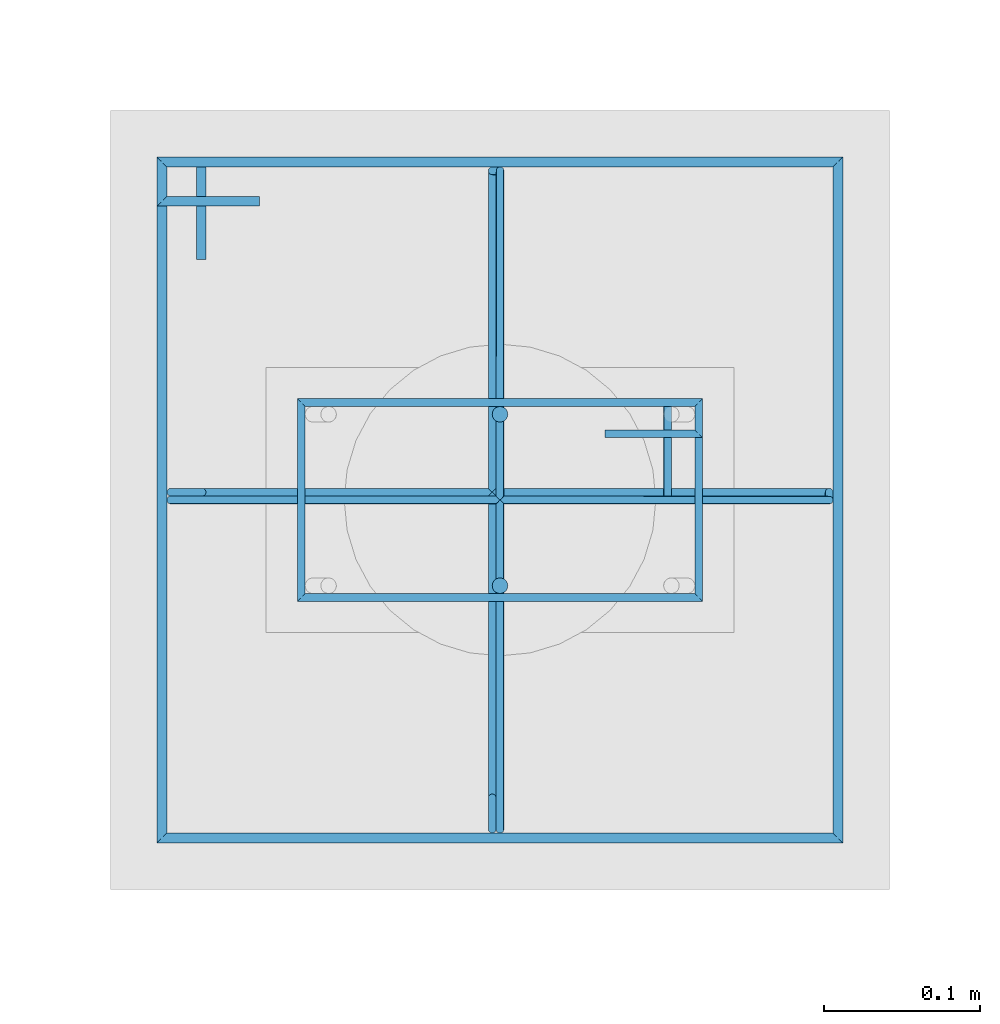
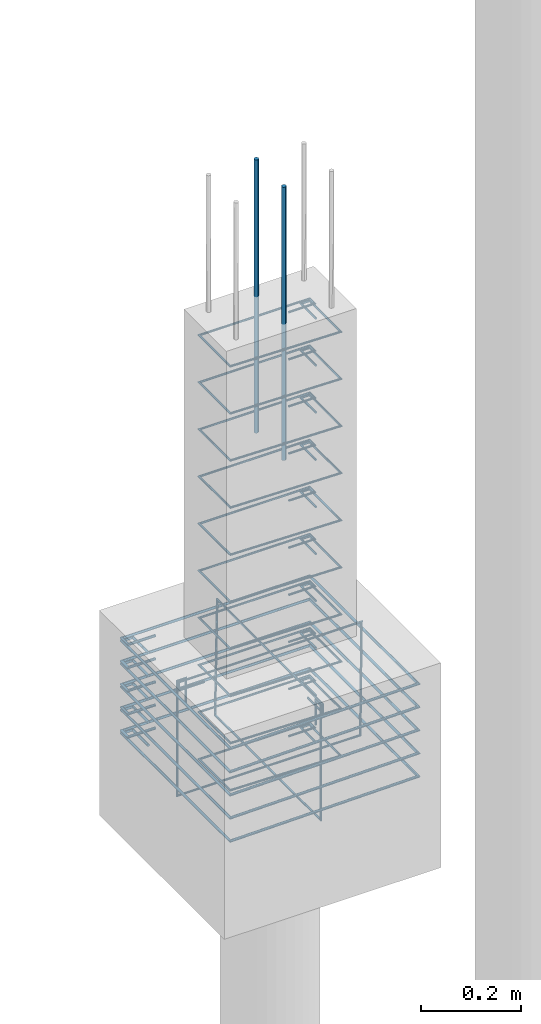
# One storey, part 101 of 119: 19 reinforcing bars.
"""IFC4 building model written with IfcOpenShell, lengths in centimetres."""

from ifc_helpers import new_model, entity, si_unit, derived_unit, frame, origin_with_axes, place, context, project, spatial, source, transform, mapped, element, save


model = new_model("IFC4")

# Units and contexts
model_context = context("Model", 3, precision=1e-05, world=origin_with_axes(), identifier="Body")
ifc_project = project(units=[si_unit("LENGTHUNIT", "METRE", prefix="CENTI"), si_unit("VOLUMEUNIT", "CUBIC_METRE"), si_unit("AREAUNIT", "SQUARE_METRE"), si_unit("POWERUNIT", "WATT"), si_unit("LUMINOUSFLUXUNIT", "LUMEN"), si_unit("ELECTRICCURRENTUNIT", "AMPERE"), si_unit("PRESSUREUNIT", "PASCAL", prefix="KILO"), si_unit("MASSUNIT", "GRAM", prefix="KILO"), si_unit("PLANEANGLEUNIT", "RADIAN"), derived_unit("VOLUMETRICFLOWRATEUNIT", [(si_unit("LENGTHUNIT", "METRE"), 3), (si_unit("TIMEUNIT", "SECOND"), -1)])], contexts=[model_context])

# Site, building, storey
site_placement = place(None, frame((-4000.0, 0.0, 0.0), z_axis=(0.0, 0.0, 1.0), x_axis=(1.0, 0.0, 0.0)))
site = spatial("IfcSite", under=ifc_project, at=site_placement, Name="PADRÃO")
building_placement = place(site_placement, frame((0.0, 0.0, -14.0)))
building = spatial("IfcBuilding", under=site, at=building_placement, Name="CRECHE PRÉ-ESCOLA TIPO 2")
storey_placement = place(building_placement, origin_with_axes())
storey = spatial("IfcBuildingStorey", under=building, at=storey_placement, Name="FUNDAÇÃO", CompositionType="ELEMENT", Elevation=-14.0)

# Reinforcing bars
shared_shape_1 = source(origin_with_axes(), model_context, "Body", "AdvancedSweptSolid", [
    entity("IfcSweptDiskSolid", entity("IfcCompositeCurve", [entity("IfcCompositeCurveSegment", "CONTINUOUS", True, entity("IfcPolyline", [entity("IfcCartesianPoint", [4.25, 21.75, 0.0]), entity("IfcCartesianPoint", [4.25, 27.75, 0.0])])), entity("IfcCompositeCurveSegment", "CONTINUOUS", True, entity("IfcPolyline", [entity("IfcCartesianPoint", [4.25, 27.75, 0.0]), entity("IfcCartesianPoint", [2.25, 27.75, 0.0])])), entity("IfcCompositeCurveSegment", "CONTINUOUS", True, entity("IfcPolyline", [entity("IfcCartesianPoint", [2.25, 27.75, 0.0]), entity("IfcCartesianPoint", [2.25, 2.25, 0.0])])), entity("IfcCompositeCurveSegment", "CONTINUOUS", True, entity("IfcPolyline", [entity("IfcCartesianPoint", [2.25, 2.25, 0.0]), entity("IfcCartesianPoint", [14.75, 2.25, 0.0])])), entity("IfcCompositeCurveSegment", "CONTINUOUS", True, entity("IfcPolyline", [entity("IfcCartesianPoint", [14.75, 2.25, 0.0]), entity("IfcCartesianPoint", [14.75, 27.75, -0.5])])), entity("IfcCompositeCurveSegment", "CONTINUOUS", True, entity("IfcPolyline", [entity("IfcCartesianPoint", [14.75, 27.75, -0.5]), entity("IfcCartesianPoint", [2.25, 27.75, -0.5])])), entity("IfcCompositeCurveSegment", "CONTINUOUS", True, entity("IfcPolyline", [entity("IfcCartesianPoint", [2.25, 27.75, -0.5]), entity("IfcCartesianPoint", [2.25, 25.75, -0.5])])), entity("IfcCompositeCurveSegment", "CONTINUOUS", True, entity("IfcPolyline", [entity("IfcCartesianPoint", [2.25, 25.75, -0.5]), entity("IfcCartesianPoint", [8.25, 25.75, -0.5])]))], False), 0.25),
])
for number, where, z_axis, x_axis, name in (
    (1, (252.0, 3209.0, -86.25), (0.0, 0.0, 1.0), (0.0, -1.0, 0.0), "P47 - Estribo"),
    (2, (252.0, 3209.0, -51.75), (0.0, 0.0, 1.0), (0.0, -1.0, 0.0), "P47 - Estribo"),
    (3, (252.0, 3209.0, -40.25), (0.0, 0.0, 1.0), (0.0, -1.0, 0.0), "P47 - Estribo"),
    (4, (252.0, 3209.0, -5.75), (0.0, 0.0, 1.0), (0.0, -1.0, 0.0), "P47 - Estribo"),
    (5, (252.0, 3209.0, -17.25), (0.0, 0.0, 1.0), (0.0, -1.0, 0.0), "P47 - Estribo"),
    (6, (252.0, 3209.0, -109.25), (0.0, 0.0, 1.0), (0.0, -1.0, 0.0), "P47 - Estribo"),
    (7, (252.0, 3209.0, -97.75), (0.0, 0.0, 1.0), (0.0, -1.0, 0.0), "P47 - Estribo"),
    (8, (252.0, 3209.0, -28.75), (0.0, 0.0, 1.0), (0.0, -1.0, 0.0), "P47 - Estribo"),
    (9, (252.0, 3209.0, -74.75), (0.0, 0.0, 1.0), (0.0, -1.0, 0.0), "P47 - Estribo"),
    (10, (252.0, 3209.0, -63.25), (0.0, 0.0, 1.0), (0.0, -1.0, 0.0), "P47 - Estribo"),
):
    element("IfcReinforcingBar", number, at=place(storey_placement, frame(where, z_axis=z_axis, x_axis=x_axis)), inside=storey, Name=name, BarLength=0.0, CrossSectionArea=1.9634954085e-05, NominalDiameter=0.5, PredefinedType="MAIN", context=model_context, shape_type="MappedRepresentation", body=[
        mapped(shared_shape_1, transform((0.0, 0.0, 0.0), scale=1.0)),
    ])
shared_shape_2 = source(origin_with_axes(), model_context, "Body", "AdvancedSweptSolid", [
    entity("IfcSweptDiskSolid", entity("IfcCompositeCurve", [entity("IfcCompositeCurveSegment", "CONTINUOUS", True, entity("IfcPolyline", [entity("IfcCartesianPoint", [247.835, 3215.925, 0.0]), entity("IfcCartesianPoint", [247.835, 3222.185, 0.0])])), entity("IfcCompositeCurveSegment", "CONTINUOUS", True, entity("IfcPolyline", [entity("IfcCartesianPoint", [247.835, 3222.185, 0.0]), entity("IfcCartesianPoint", [245.315, 3222.185, 0.0])])), entity("IfcCompositeCurveSegment", "CONTINUOUS", True, entity("IfcPolyline", [entity("IfcCartesianPoint", [245.315, 3222.185, 0.0]), entity("IfcCartesianPoint", [245.315, 3178.815, 0.0])])), entity("IfcCompositeCurveSegment", "CONTINUOUS", True, entity("IfcPolyline", [entity("IfcCartesianPoint", [245.315, 3178.815, 0.0]), entity("IfcCartesianPoint", [288.685, 3178.815, 0.63])])), entity("IfcCompositeCurveSegment", "CONTINUOUS", True, entity("IfcPolyline", [entity("IfcCartesianPoint", [288.685, 3178.815, 0.63]), entity("IfcCartesianPoint", [288.685, 3222.185, 0.63])])), entity("IfcCompositeCurveSegment", "CONTINUOUS", True, entity("IfcPolyline", [entity("IfcCartesianPoint", [288.685, 3222.185, 0.63]), entity("IfcCartesianPoint", [245.315, 3222.185, 0.63])])), entity("IfcCompositeCurveSegment", "CONTINUOUS", True, entity("IfcPolyline", [entity("IfcCartesianPoint", [245.315, 3222.185, 0.63]), entity("IfcCartesianPoint", [245.315, 3219.665, 0.63])])), entity("IfcCompositeCurveSegment", "CONTINUOUS", True, entity("IfcPolyline", [entity("IfcCartesianPoint", [245.315, 3219.665, 0.63]), entity("IfcCartesianPoint", [251.575, 3219.665, 0.63])]))], False), 0.315),
])
for number, where, z_axis, x_axis, name in (
    (11, (0.0, 0.0, -86.575), (0.0, 0.0, 1.0), (1.0, 0.0, 0.0), "P47 - Blocos (estribos)"),
    (12, (0.0, 0.0, -92.225), (0.0, 0.0, 1.0), (1.0, 0.0, 0.0), "P47 - Blocos (estribos)"),
    (13, (0.0, 0.0, -97.875), (0.0, 0.0, 1.0), (1.0, 0.0, 0.0), "P47 - Blocos (estribos)"),
    (14, (0.0, 0.0, -109.175), (0.0, 0.0, 1.0), (1.0, 0.0, 0.0), "P47 - Blocos (estribos)"),
    (15, (0.0, 0.0, -103.525), (0.0, 0.0, 1.0), (1.0, 0.0, 0.0), "P47 - Blocos (estribos)"),
):
    element("IfcReinforcingBar", number, at=place(storey_placement, frame(where, z_axis=z_axis, x_axis=x_axis)), inside=storey, Name=name, BarLength=0.0, CrossSectionArea=3.1172453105e-05, NominalDiameter=0.63, PredefinedType="MAIN", context=model_context, shape_type="MappedRepresentation", body=[
        mapped(shared_shape_2, transform((0.0, 0.0, 0.0), scale=1.0)),
    ])
shared_shape_3 = source(origin_with_axes(), model_context, "Body", "AdvancedSweptSolid", [
    entity("IfcSweptDiskSolid", entity("IfcCompositeCurve", [entity("IfcCompositeCurveSegment", "CONTINUOUS", True, entity("IfcPolyline", [entity("IfcCartesianPoint", [-15.12, -12.0, 0.0]), entity("IfcCartesianPoint", [-21.12, -12.0, 0.0])])), entity("IfcCompositeCurveSegment", "CONTINUOUS", True, entity("IfcPolyline", [entity("IfcCartesianPoint", [-21.12, -12.0, 0.0]), entity("IfcCartesianPoint", [-21.12, -14.0, 0.0])])), entity("IfcCompositeCurveSegment", "CONTINUOUS", True, entity("IfcPolyline", [entity("IfcCartesianPoint", [-21.12, -14.0, 0.0]), entity("IfcCartesianPoint", [21.12, -14.0, 0.0])])), entity("IfcCompositeCurveSegment", "CONTINUOUS", True, entity("IfcPolyline", [entity("IfcCartesianPoint", [21.12, -14.0, 0.0]), entity("IfcCartesianPoint", [21.12, 14.0, 0.5])])), entity("IfcCompositeCurveSegment", "CONTINUOUS", True, entity("IfcPolyline", [entity("IfcCartesianPoint", [21.12, 14.0, 0.5]), entity("IfcCartesianPoint", [-21.12, 14.0, 0.5])])), entity("IfcCompositeCurveSegment", "CONTINUOUS", True, entity("IfcPolyline", [entity("IfcCartesianPoint", [-21.12, 14.0, 0.5]), entity("IfcCartesianPoint", [-21.12, -14.0, 0.5])])), entity("IfcCompositeCurveSegment", "CONTINUOUS", True, entity("IfcPolyline", [entity("IfcCartesianPoint", [-21.12, -14.0, 0.5]), entity("IfcCartesianPoint", [-19.12, -14.0, 0.5])])), entity("IfcCompositeCurveSegment", "CONTINUOUS", True, entity("IfcPolyline", [entity("IfcCartesianPoint", [-19.12, -14.0, 0.5]), entity("IfcCartesianPoint", [-19.12, -8.0, 0.5])]))], False), 0.25),
])
reinforcing_bar_1_placement = place(storey_placement, frame((267.0, 3200.5, -97.75), z_axis=(0.0, 1.0, 0.0), x_axis=(1.0, 0.0, 0.0)))
element("IfcReinforcingBar", 16, at=reinforcing_bar_1_placement, inside=storey, Name="P47 - Blocos (estribos)", BarLength=0.0, CrossSectionArea=1.9634954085e-05, NominalDiameter=0.5, PredefinedType="MAIN", context=model_context, shape_type="MappedRepresentation", body=[
    mapped(shared_shape_3, transform((0.0, 0.0, 0.0), scale=1.0)),
])
shared_shape_4 = source(origin_with_axes(), model_context, "Body", "AdvancedSweptSolid", [
    entity("IfcSweptDiskSolid", entity("IfcCompositeCurve", [entity("IfcCompositeCurveSegment", "CONTINUOUS", True, entity("IfcPolyline", [entity("IfcCartesianPoint", [-15.12, -12.0, 0.0]), entity("IfcCartesianPoint", [-21.12, -12.0, 0.0])])), entity("IfcCompositeCurveSegment", "CONTINUOUS", True, entity("IfcPolyline", [entity("IfcCartesianPoint", [-21.12, -12.0, 0.0]), entity("IfcCartesianPoint", [-21.12, -14.0, 0.0])])), entity("IfcCompositeCurveSegment", "CONTINUOUS", True, entity("IfcPolyline", [entity("IfcCartesianPoint", [-21.12, -14.0, 0.0]), entity("IfcCartesianPoint", [21.12, -14.0, 0.0])])), entity("IfcCompositeCurveSegment", "CONTINUOUS", True, entity("IfcPolyline", [entity("IfcCartesianPoint", [21.12, -14.0, 0.0]), entity("IfcCartesianPoint", [21.12, 14.0, 0.5])])), entity("IfcCompositeCurveSegment", "CONTINUOUS", True, entity("IfcPolyline", [entity("IfcCartesianPoint", [21.12, 14.0, 0.5]), entity("IfcCartesianPoint", [-21.12, 14.0, 0.5])])), entity("IfcCompositeCurveSegment", "CONTINUOUS", True, entity("IfcPolyline", [entity("IfcCartesianPoint", [-21.12, 14.0, 0.5]), entity("IfcCartesianPoint", [-21.12, -14.0, 0.5])])), entity("IfcCompositeCurveSegment", "CONTINUOUS", True, entity("IfcPolyline", [entity("IfcCartesianPoint", [-21.12, -14.0, 0.5]), entity("IfcCartesianPoint", [-19.12, -14.0, 0.5])])), entity("IfcCompositeCurveSegment", "CONTINUOUS", True, entity("IfcPolyline", [entity("IfcCartesianPoint", [-19.12, -14.0, 0.5]), entity("IfcCartesianPoint", [-19.12, -8.0, 0.5])]))], False), 0.25),
])
reinforcing_bar_2_placement = place(storey_placement, frame((267.0, 3200.5, -97.75), z_axis=(-1.0, 0.0, 0.0), x_axis=(0.0, 1.0, 0.0)))
element("IfcReinforcingBar", 17, at=reinforcing_bar_2_placement, inside=storey, Name="P47 - Blocos (estribos)", BarLength=0.0, CrossSectionArea=1.9634954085e-05, NominalDiameter=0.5, PredefinedType="MAIN", context=model_context, shape_type="MappedRepresentation", body=[
    mapped(shared_shape_4, transform((0.0, 0.0, 0.0), scale=1.0)),
])
for number, where, z_axis, x_axis, name in (
    (18, (267.0, 3206.0, 33.3573001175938), (0.0, 0.0, 1.0), (1.0, 0.0, 0.0), "P47 - Longitudinal"),
    (19, (267.0, 3195.0, 33.3573001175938), (0.0, 0.0, 1.0), (1.0, 0.0, 0.0), "P47 - Longitudinal"),
):
    element("IfcReinforcingBar", number, at=place(storey_placement, frame(where, z_axis=z_axis, x_axis=x_axis)), inside=storey, Name=name, BarLength=0.0, CrossSectionArea=7.853981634e-05, NominalDiameter=1.0, PredefinedType="MAIN", context=model_context, shape_type="AdvancedSweptSolid", body=[
        entity("IfcSweptDiskSolid", entity("IfcCompositeCurve", [entity("IfcCompositeCurveSegment", "CONTINUOUS", True, entity("IfcPolyline", [entity("IfcCartesianPoint", [0.0, 0.0, -66.7146002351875]), entity("IfcCartesianPoint", [0.0, 0.0, 0.0])]))], False), 0.5),
    ])

save(model, "model.ifc")
